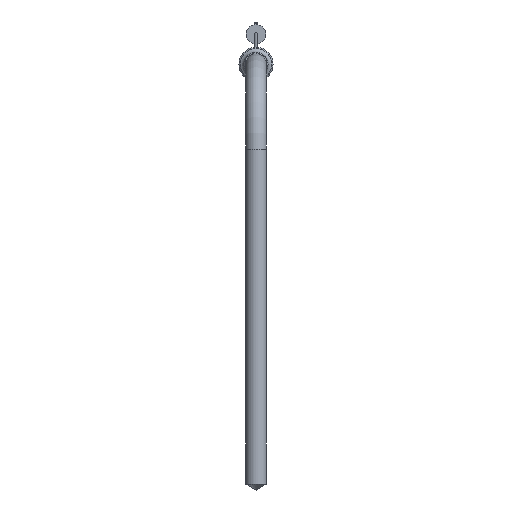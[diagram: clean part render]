
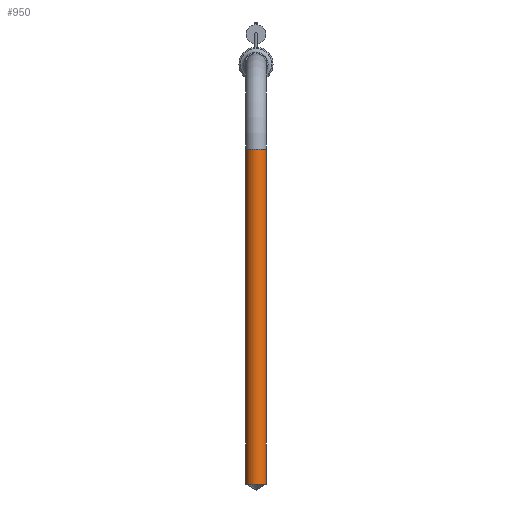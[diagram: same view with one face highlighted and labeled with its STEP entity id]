
A CAD part, top view. The second image highlights one B-rep face of the part: STEP entity #950.
In plain terms, the highlighted cylindrical face has radius 2.4 mm (diameter 4.8 mm), a full revolution.
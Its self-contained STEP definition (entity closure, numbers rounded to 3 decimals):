
#2 = CIRCLE ( 'NONE', #2154, 2.4 ) ;
#67 = EDGE_LOOP ( 'NONE', ( #1401 ) ) ;
#285 = DIRECTION ( 'NONE',  ( 0., -1., 0. ) ) ;
#431 = ORIENTED_EDGE ( 'NONE', *, *, #1656, .T. ) ;
#522 = DIRECTION ( 'NONE',  ( 0., 1., 0. ) ) ;
#629 = CARTESIAN_POINT ( 'NONE',  ( 0., -20., 24. ) ) ;
#660 = DIRECTION ( 'NONE',  ( 0., 0., 1. ) ) ;
#852 = CARTESIAN_POINT ( 'NONE',  ( 0., -98.62, 24. ) ) ;
#901 = VERTEX_POINT ( 'NONE', #2078 ) ;
#946 = AXIS2_PLACEMENT_3D ( 'NONE', #629, #285, #1340 ) ;
#950 = ADVANCED_FACE ( 'NONE', ( #1055, #974 ), #1157, .T. ) ;
#960 = VERTEX_POINT ( 'NONE', #1223 ) ;
#974 = FACE_OUTER_BOUND ( 'NONE', #2143, .T. ) ;
#988 = CARTESIAN_POINT ( 'NONE',  ( 0., -20., 24. ) ) ;
#1055 = FACE_OUTER_BOUND ( 'NONE', #67, .T. ) ;
#1157 = CYLINDRICAL_SURFACE ( 'NONE', #946, 2.4 ) ;
#1223 = CARTESIAN_POINT ( 'NONE',  ( 0., -98.62, 26.4 ) ) ;
#1260 = EDGE_CURVE ( 'NONE', #960, #960, #2, .T. ) ;
#1306 = CIRCLE ( 'NONE', #2148, 2.4 ) ;
#1340 = DIRECTION ( 'NONE',  ( 0., 0., 1. ) ) ;
#1401 = ORIENTED_EDGE ( 'NONE', *, *, #1260, .T. ) ;
#1463 = DIRECTION ( 'NONE',  ( -1., 0., 0. ) ) ;
#1637 = DIRECTION ( 'NONE',  ( 0., -1., 0. ) ) ;
#1656 = EDGE_CURVE ( 'NONE', #901, #901, #1306, .T. ) ;
#2078 = CARTESIAN_POINT ( 'NONE',  ( -2.4, -20., 24. ) ) ;
#2143 = EDGE_LOOP ( 'NONE', ( #431 ) ) ;
#2148 = AXIS2_PLACEMENT_3D ( 'NONE', #988, #1637, #1463 ) ;
#2154 = AXIS2_PLACEMENT_3D ( 'NONE', #852, #522, #660 ) ;
